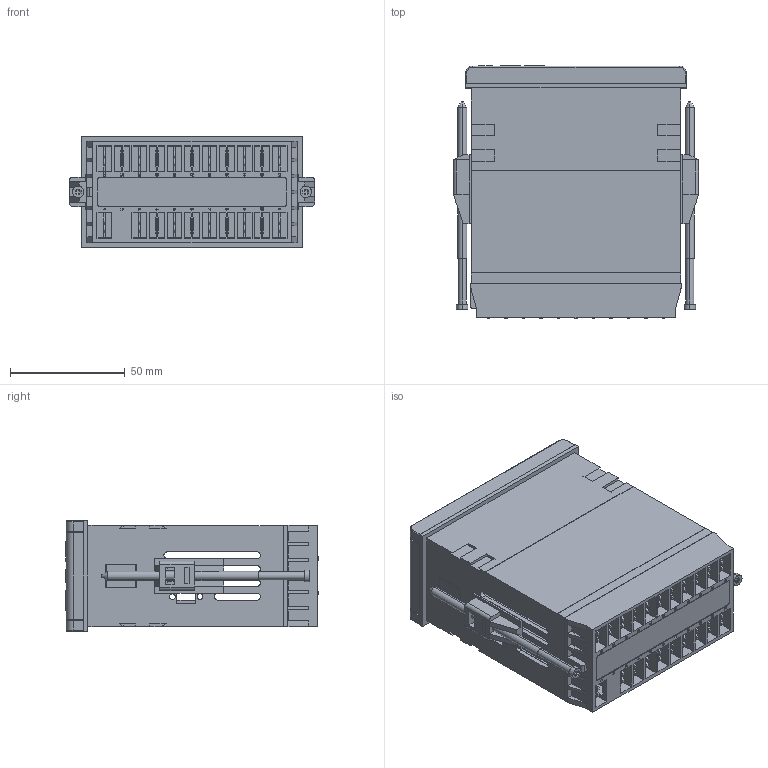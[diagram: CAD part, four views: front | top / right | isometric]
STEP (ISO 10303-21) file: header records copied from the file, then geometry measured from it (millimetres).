
FILE_DESCRIPTION((''),'2;1');
FILE_NAME('1000_1001_ASSY','2023-07-21T12:05:21',('paolo.garatti'),('GEFRAN S.p.A'),'CREO PARAMETRIC BY PTC INC, 2018300','CREO PARAMETRIC BY PTC INC, 2018300','');
FILE_SCHEMA(('AUTOMOTIVE_DESIGN { 1 0 10303 214 1 1 1 1 }'));
Products named in the file (12): 0057D_51216; 0638D3; 3671D_51215; 0273D_51213S; 0286D_52415; 49044_BLOCCHETTO_CHIUSURA; 48034_VITE_TSP_M3X26; 0927D_FLA980; MIM197; 0929D2; 0927D_49030; 1000_1001_ASSY
Assembly tree (33 placements, depth 3):
  1000_1001_ASSY
    0057D_51216
    0638D3  x22
    3671D_51215
    0273D_51213S
    0286D_52415
    49044_BLOCCHETTO_CHIUSURA
    48034_VITE_TSP_M3X26
    0927D_49030  x2
      0927D_FLA980
      MIM197
      0929D2
Bounding box: 106.6 x 109.9 x 48 mm (x, y, z)
Volume: 88995.4 mm3; surface area: 114415.3 mm2
Topology: 34 solids, 34 shells, 3287 faces, 9321 edges, 6157 vertices
Faces by surface type: plane 2870, cylinder 365, torus 30, cone 22
Entity records: 115960 total; most frequent: CARTESIAN_POINT 14027, ORIENTED_EDGE 13754, DIRECTION 12175, PRESENTATION_STYLE_ASSIGNMENT 8901, STYLED_ITEM 8876, CURVE_STYLE 6877, EDGE_CURVE 6877, VECTOR 6457
